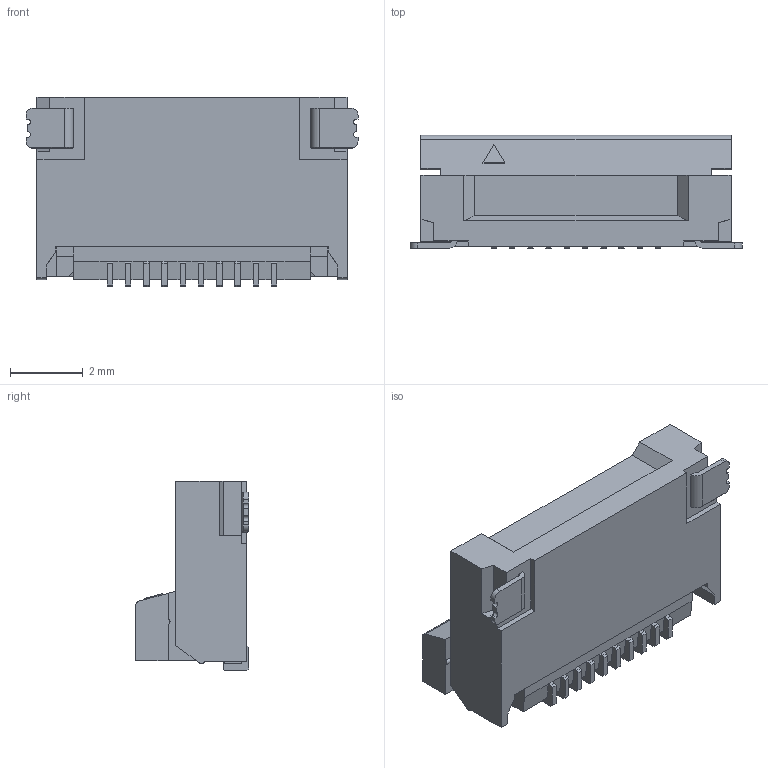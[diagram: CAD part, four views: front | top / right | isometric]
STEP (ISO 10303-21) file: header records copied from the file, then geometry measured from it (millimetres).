
FILE_DESCRIPTION (( 'STEP AP203' ), '1' );
FILE_NAME ('20477-010E-xxC ASS''Y ACT-OPEN STEP R0 ALL.STEP', '2013-05-10T06:55:12', ( 'kaihatsu-3dcad-3' ), ( '' ), 'SwSTEP 2.0', 'SolidWorks 2011', '' );
FILE_SCHEMA (( 'CONFIG_CONTROL_DESIGN' ));
Length unit declared in the file: millimetre
Products named in the file (1): 20477-010E-xxC ASS''Y ACT-OPEN STEP R0 ALL
Bounding box: 9.1 x 3.1 x 5.2 mm (x, y, z)
Volume: 83.9 mm3; surface area: 184.9 mm2
Topology: 1 solids, 1 shells, 242 faces, 685 edges, 448 vertices
Faces by surface type: plane 211, cylinder 27, cone 4
Entity records: 7789 total; most frequent: CARTESIAN_POINT 1409, ORIENTED_EDGE 1370, DIRECTION 1221, EDGE_CURVE 685, VECTOR 619, LINE 619, VERTEX_POINT 448, AXIS2_PLACEMENT_3D 301
